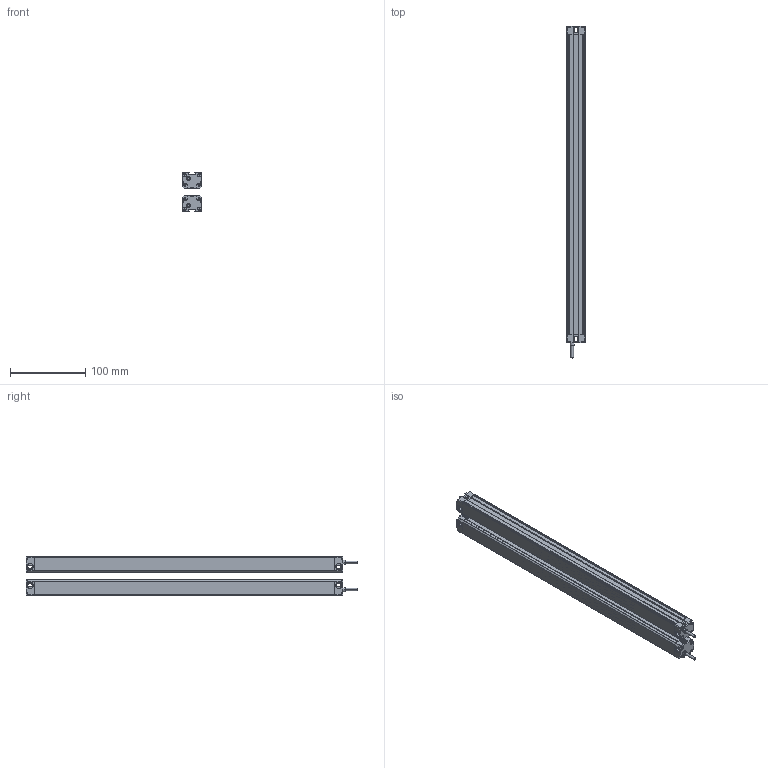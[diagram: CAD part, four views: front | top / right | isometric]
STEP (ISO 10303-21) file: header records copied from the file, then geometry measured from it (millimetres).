
FILE_DESCRIPTION (( 'STEP AP214' ), '1' );
FILE_NAME ('MTC4010.STEP', '2022-12-02T08:15:26', ( '' ), ( '' ), 'SwSTEP 2.0', 'SolidWorks 2018', '' );
FILE_SCHEMA (( 'AUTOMOTIVE_DESIGN' ));
Length unit declared in the file: millimetre
Products named in the file (5): MTC waike^MTC; P01^MTC; P02^MTC; 噩砃P02^MTC; MTC4010
Assembly tree (6 placements, depth 2):
  MTC4010
    MTC waike^MTC  x2
    P01^MTC  x2
    P02^MTC
    噩砃P02^MTC
Bounding box: 25 x 442 x 51.4 mm (x, y, z)
Volume: 144297.3 mm3; surface area: 193993.3 mm2
Topology: 8 solids, 8 shells, 480 faces, 1396 edges, 924 vertices
Faces by surface type: plane 272, cylinder 208
Entity records: 10886 total; most frequent: DIRECTION 1881, CARTESIAN_POINT 1878, ORIENTED_EDGE 1846, EDGE_CURVE 923, AXIS2_PLACEMENT_3D 637, VERTEX_POINT 610, VECTOR 607, LINE 607
